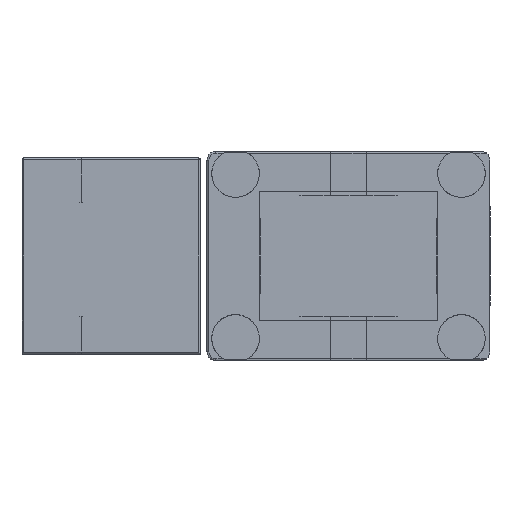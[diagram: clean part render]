
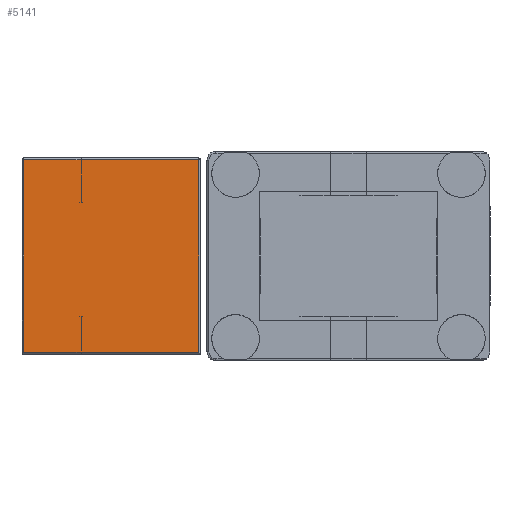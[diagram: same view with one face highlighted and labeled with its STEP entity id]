
A CAD part, left-side view. The second image highlights one B-rep face of the part: STEP entity #5141.
In plain terms, the highlighted planar face has unit normal (-1, 0, 0).
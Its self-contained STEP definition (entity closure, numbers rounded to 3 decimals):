
#299 = LINE ( 'NONE', #629, #2768 ) ;
#629 = CARTESIAN_POINT ( 'NONE',  ( -38., 31.75, -10.8 ) ) ;
#641 = FACE_OUTER_BOUND ( 'NONE', #4732, .T. ) ;
#834 = VERTEX_POINT ( 'NONE', #5931 ) ;
#950 = DIRECTION ( 'NONE',  ( 0., 0., -1. ) ) ;
#1052 = DIRECTION ( 'NONE',  ( 0., 1., 0. ) ) ;
#1256 = VERTEX_POINT ( 'NONE', #7088 ) ;
#1770 = CARTESIAN_POINT ( 'NONE',  ( -38., 51.55, 10.8 ) ) ;
#1945 = PLANE ( 'NONE',  #8643 ) ;
#2147 = VERTEX_POINT ( 'NONE', #5377 ) ;
#2271 = LINE ( 'NONE', #3386, #3623 ) ;
#2284 = ORIENTED_EDGE ( 'NONE', *, *, #4339, .T. ) ;
#2768 = VECTOR ( 'NONE', #4891, 1000. ) ;
#3306 = DIRECTION ( 'NONE',  ( -1., 0., 0. ) ) ;
#3386 = CARTESIAN_POINT ( 'NONE',  ( -38., 31.95, -10. ) ) ;
#3441 = ORIENTED_EDGE ( 'NONE', *, *, #8080, .T. ) ;
#3452 = ORIENTED_EDGE ( 'NONE', *, *, #8891, .T. ) ;
#3623 = VECTOR ( 'NONE', #5057, 1000. ) ;
#3826 = CARTESIAN_POINT ( 'NONE',  ( -38., 51.55, -10. ) ) ;
#3841 = LINE ( 'NONE', #6172, #8077 ) ;
#4186 = VERTEX_POINT ( 'NONE', #1770 ) ;
#4339 = EDGE_CURVE ( 'NONE', #834, #2147, #299, .T. ) ;
#4732 = EDGE_LOOP ( 'NONE', ( #5106, #2284, #3452, #3441 ) ) ;
#4891 = DIRECTION ( 'NONE',  ( 0., -1., 0. ) ) ;
#4954 = VECTOR ( 'NONE', #950, 1000. ) ;
#5057 = DIRECTION ( 'NONE',  ( 0., 0., 1. ) ) ;
#5106 = ORIENTED_EDGE ( 'NONE', *, *, #9031, .T. ) ;
#5141 = ADVANCED_FACE ( 'NONE', ( #641 ), #1945, .T. ) ;
#5377 = CARTESIAN_POINT ( 'NONE',  ( -38., 31.95, -10.8 ) ) ;
#5931 = CARTESIAN_POINT ( 'NONE',  ( -38., 51.55, -10.8 ) ) ;
#6172 = CARTESIAN_POINT ( 'NONE',  ( -38., 51.75, 10.8 ) ) ;
#6951 = CARTESIAN_POINT ( 'NONE',  ( -38., 49.75, -10. ) ) ;
#7088 = CARTESIAN_POINT ( 'NONE',  ( -38., 31.95, 10.8 ) ) ;
#7527 = LINE ( 'NONE', #3826, #4954 ) ;
#8077 = VECTOR ( 'NONE', #1052, 1000. ) ;
#8080 = EDGE_CURVE ( 'NONE', #1256, #4186, #3841, .T. ) ;
#8300 = DIRECTION ( 'NONE',  ( 0., 0., 1. ) ) ;
#8643 = AXIS2_PLACEMENT_3D ( 'NONE', #6951, #3306, #8300 ) ;
#8891 = EDGE_CURVE ( 'NONE', #2147, #1256, #2271, .T. ) ;
#9031 = EDGE_CURVE ( 'NONE', #4186, #834, #7527, .T. ) ;
